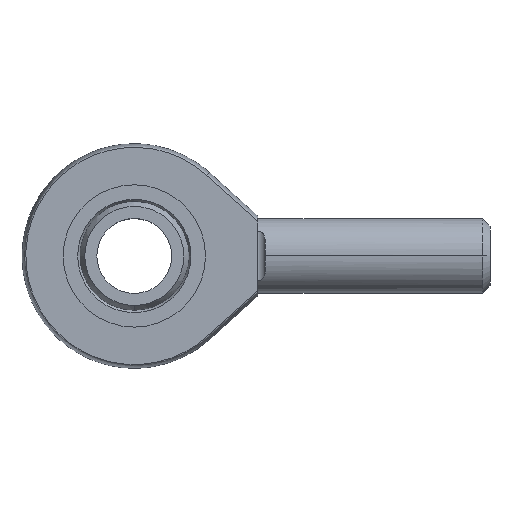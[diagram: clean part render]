
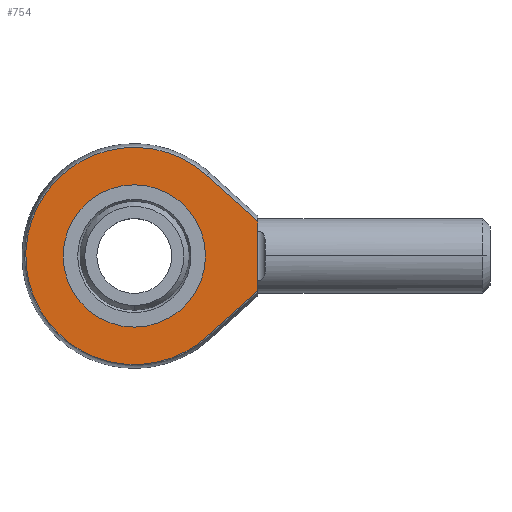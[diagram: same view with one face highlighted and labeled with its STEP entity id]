
A CAD part, top view. The second image highlights one B-rep face of the part: STEP entity #754.
In plain terms, the highlighted planar face has unit normal (0, 0, 1).
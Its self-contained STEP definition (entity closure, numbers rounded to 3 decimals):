
#6 = CARTESIAN_POINT ( 'NONE',  ( -1.5, 4.674, 7.5 ) ) ;
#7 = CARTESIAN_POINT ( 'NONE',  ( -22.629, 13.812, 7.5 ) ) ;
#20 = CARTESIAN_POINT ( 'NONE',  ( -8.315, 10.791, 7.5 ) ) ;
#137 = CARTESIAN_POINT ( 'NONE',  ( -13.041, -13.697, 7.5 ) ) ;
#146 = AXIS2_PLACEMENT_3D ( 'NONE', #1005, #1390, #859 ) ;
#163 = CARTESIAN_POINT ( 'NONE',  ( -27.5, 0., 7.5 ) ) ;
#183 = B_SPLINE_CURVE_WITH_KNOTS ( 'NONE', 3,
 ( #378, #1139, #361, #1129 ),
 .UNSPECIFIED., .F., .F.,
 ( 4, 4 ),
 ( 0., 0.82 ),
 .UNSPECIFIED. ) ;
#231 = EDGE_CURVE ( 'NONE', #349, #734, #360, .T. ) ;
#254 = CARTESIAN_POINT ( 'NONE',  ( -32.301, -2.773, 7.5 ) ) ;
#269 = CARTESIAN_POINT ( 'NONE',  ( -29.402, -9.067, 7.5 ) ) ;
#280 = CARTESIAN_POINT ( 'NONE',  ( -29.402, 9.067, 7.5 ) ) ;
#328 = VECTOR ( 'NONE', #1176, 1000. ) ;
#342 = VERTEX_POINT ( 'NONE', #163 ) ;
#349 = VERTEX_POINT ( 'NONE', #394 ) ;
#360 = LINE ( 'NONE', #1402, #402 ) ;
#361 = CARTESIAN_POINT ( 'NONE',  ( -3.772, -6.713, 7.5 ) ) ;
#362 = B_SPLINE_CURVE_WITH_KNOTS ( 'NONE', 3,
 ( #656, #791, #1293, #511 ),
 .UNSPECIFIED., .F., .F.,
 ( 4, 4 ),
 ( 0.18, 1. ),
 .UNSPECIFIED. ) ;
#378 = CARTESIAN_POINT ( 'NONE',  ( -8.315, -10.791, 7.5 ) ) ;
#394 = CARTESIAN_POINT ( 'NONE',  ( -1.5, 3.307, 7.5 ) ) ;
#402 = VECTOR ( 'NONE', #1157, 1000. ) ;
#465 = CARTESIAN_POINT ( 'NONE',  ( -32.5, 1.4, 7.5 ) ) ;
#486 = EDGE_LOOP ( 'NONE', ( #1006, #1558, #1472, #1187, #1600, #1326 ) ) ;
#491 = VERTEX_POINT ( 'NONE', #709 ) ;
#507 = CARTESIAN_POINT ( 'NONE',  ( -28.488, 10.11, 7.5 ) ) ;
#511 = CARTESIAN_POINT ( 'NONE',  ( -8.315, 10.791, 7.5 ) ) ;
#522 = CARTESIAN_POINT ( 'NONE',  ( -31.506, 5.458, 7.5 ) ) ;
#531 = CARTESIAN_POINT ( 'NONE',  ( -14.365, 14.107, 7.5 ) ) ;
#548 = CIRCLE ( 'NONE', #146, 9.5 ) ;
#556 = EDGE_CURVE ( 'NONE', #832, #1132, #1136, .T. ) ;
#635 = CARTESIAN_POINT ( 'NONE',  ( -14.365, -14.107, 7.5 ) ) ;
#644 = DIRECTION ( 'NONE',  ( 1., 0., 0. ) ) ;
#645 = CARTESIAN_POINT ( 'NONE',  ( -10.511, -12.495, 7.5 ) ) ;
#653 = CARTESIAN_POINT ( 'NONE',  ( -30.926, -6.718, 7.5 ) ) ;
#656 = CARTESIAN_POINT ( 'NONE',  ( -1.5, 4.674, 7.5 ) ) ;
#670 = CARTESIAN_POINT ( 'NONE',  ( -8.315, -10.791, 7.5 ) ) ;
#671 = CARTESIAN_POINT ( 'NONE',  ( -31.506, -5.458, 7.5 ) ) ;
#709 = CARTESIAN_POINT ( 'NONE',  ( -8.315, 10.791, 7.5 ) ) ;
#734 = VERTEX_POINT ( 'NONE', #6 ) ;
#747 = CARTESIAN_POINT ( 'NONE',  ( -1.5, -3.307, 7.5 ) ) ;
#754 = ADVANCED_FACE ( 'NONE', ( #786, #898 ), #1060, .T. ) ;
#778 = CARTESIAN_POINT ( 'NONE',  ( -22.629, -13.812, 7.5 ) ) ;
#786 = FACE_OUTER_BOUND ( 'NONE', #486, .T. ) ;
#787 = CARTESIAN_POINT ( 'NONE',  ( -17.132, 14.542, 7.5 ) ) ;
#790 = VERTEX_POINT ( 'NONE', #670 ) ;
#791 = CARTESIAN_POINT ( 'NONE',  ( -3.772, 6.713, 7.5 ) ) ;
#796 = CARTESIAN_POINT ( 'NONE',  ( -8.315, -10.791, 7.5 ) ) ;
#802 = CARTESIAN_POINT ( 'NONE',  ( -32.301, 2.773, 7.5 ) ) ;
#816 = AXIS2_PLACEMENT_3D ( 'NONE', #1415, #1570, #644 ) ;
#832 = VERTEX_POINT ( 'NONE', #1527 ) ;
#858 = CARTESIAN_POINT ( 'NONE',  ( -18., 0., 7.5 ) ) ;
#859 = DIRECTION ( 'NONE',  ( 1., 0., 0. ) ) ;
#860 = ORIENTED_EDGE ( 'NONE', *, *, #1482, .F. ) ;
#878 = DIRECTION ( 'NONE',  ( 0., 0., 1. ) ) ;
#891 = EDGE_CURVE ( 'NONE', #342, #1064, #1130, .T. ) ;
#898 = FACE_BOUND ( 'NONE', #1590, .T. ) ;
#923 = CARTESIAN_POINT ( 'NONE',  ( -18.519, 14.558, 7.5 ) ) ;
#925 = ORIENTED_EDGE ( 'NONE', *, *, #891, .F. ) ;
#926 = CARTESIAN_POINT ( 'NONE',  ( -8.5, 0., 7.5 ) ) ;
#990 = EDGE_CURVE ( 'NONE', #734, #491, #362, .T. ) ;
#1003 = EDGE_CURVE ( 'NONE', #349, #1132, #1185, .T. ) ;
#1005 = CARTESIAN_POINT ( 'NONE',  ( -18., 0., 7.5 ) ) ;
#1006 = ORIENTED_EDGE ( 'NONE', *, *, #990, .T. ) ;
#1031 = CARTESIAN_POINT ( 'NONE',  ( -13.04, 13.697, 7.5 ) ) ;
#1037 = CARTESIAN_POINT ( 'NONE',  ( -1.5, 10., 7.5 ) ) ;
#1051 = CARTESIAN_POINT ( 'NONE',  ( -9.357, -11.727, 7.5 ) ) ;
#1060 = PLANE ( 'NONE',  #816 ) ;
#1061 = CARTESIAN_POINT ( 'NONE',  ( -10.511, 12.495, 7.5 ) ) ;
#1064 = VERTEX_POINT ( 'NONE', #926 ) ;
#1127 = CARTESIAN_POINT ( 'NONE',  ( -1.5, 0., 7.5 ) ) ;
#1129 = CARTESIAN_POINT ( 'NONE',  ( -1.5, -4.674, 7.5 ) ) ;
#1130 = CIRCLE ( 'NONE', #1266, 9.5 ) ;
#1132 = VERTEX_POINT ( 'NONE', #747 ) ;
#1136 = LINE ( 'NONE', #1127, #1513 ) ;
#1139 = CARTESIAN_POINT ( 'NONE',  ( -6.043, -8.752, 7.5 ) ) ;
#1157 = DIRECTION ( 'NONE',  ( 0., 1., 0. ) ) ;
#1166 = CARTESIAN_POINT ( 'NONE',  ( -25.187, 12.671, 7.5 ) ) ;
#1176 = DIRECTION ( 'NONE',  ( 0., -1., 0. ) ) ;
#1180 = CARTESIAN_POINT ( 'NONE',  ( -30.926, 6.718, 7.5 ) ) ;
#1185 = LINE ( 'NONE', #1037, #328 ) ;
#1187 = ORIENTED_EDGE ( 'NONE', *, *, #556, .T. ) ;
#1199 = CARTESIAN_POINT ( 'NONE',  ( -26.359, -11.93, 7.5 ) ) ;
#1240 = EDGE_CURVE ( 'NONE', #790, #832, #183, .T. ) ;
#1266 = AXIS2_PLACEMENT_3D ( 'NONE', #858, #878, #1493 ) ;
#1291 = EDGE_CURVE ( 'NONE', #491, #790, #1549, .T. ) ;
#1293 = CARTESIAN_POINT ( 'NONE',  ( -6.043, 8.752, 7.5 ) ) ;
#1304 = CARTESIAN_POINT ( 'NONE',  ( -18.519, -14.558, 7.5 ) ) ;
#1311 = CARTESIAN_POINT ( 'NONE',  ( -32.5, -1.4, 7.5 ) ) ;
#1326 = ORIENTED_EDGE ( 'NONE', *, *, #231, .T. ) ;
#1331 = CARTESIAN_POINT ( 'NONE',  ( -9.357, 11.726, 7.5 ) ) ;
#1390 = DIRECTION ( 'NONE',  ( 0., 0., 1. ) ) ;
#1402 = CARTESIAN_POINT ( 'NONE',  ( -1.5, 0., 7.5 ) ) ;
#1415 = CARTESIAN_POINT ( 'NONE',  ( -18., 0., 7.5 ) ) ;
#1416 = CARTESIAN_POINT ( 'NONE',  ( -21.295, 14.19, 7.5 ) ) ;
#1428 = CARTESIAN_POINT ( 'NONE',  ( -25.187, -12.671, 7.5 ) ) ;
#1446 = CARTESIAN_POINT ( 'NONE',  ( -21.295, -14.19, 7.5 ) ) ;
#1472 = ORIENTED_EDGE ( 'NONE', *, *, #1240, .T. ) ;
#1482 = EDGE_CURVE ( 'NONE', #1064, #342, #548, .T. ) ;
#1493 = DIRECTION ( 'NONE',  ( 1., 0., 0. ) ) ;
#1513 = VECTOR ( 'NONE', #1634, 1000. ) ;
#1527 = CARTESIAN_POINT ( 'NONE',  ( -1.5, -4.674, 7.5 ) ) ;
#1549 = B_SPLINE_CURVE_WITH_KNOTS ( 'NONE', 3,
 ( #20, #1331, #1061, #1031, #531, #787, #923, #1416, #7, #1166, #1674, #507, #280, #1180, #522, #802, #465, #1311, #254, #671, #653, #269, #1587, #1199, #1428, #778, #1446, #1304, #1579, #635, #137, #645, #1051, #796 ),
 .UNSPECIFIED., .F., .F.,
 ( 4, 2, 2, 2, 2, 2, 2, 2, 2, 2, 2, 2, 2, 2, 2, 2, 4 ),
 ( 0., 0.063, 0.125, 0.188, 0.25, 0.313, 0.375, 0.438, 0.5, 0.563, 0.625, 0.688, 0.75, 0.813, 0.875, 0.938, 1. ),
 .UNSPECIFIED. ) ;
#1558 = ORIENTED_EDGE ( 'NONE', *, *, #1291, .T. ) ;
#1570 = DIRECTION ( 'NONE',  ( 0., 0., 1. ) ) ;
#1579 = CARTESIAN_POINT ( 'NONE',  ( -17.132, -14.542, 7.5 ) ) ;
#1587 = CARTESIAN_POINT ( 'NONE',  ( -28.488, -10.11, 7.5 ) ) ;
#1590 = EDGE_LOOP ( 'NONE', ( #925, #860 ) ) ;
#1600 = ORIENTED_EDGE ( 'NONE', *, *, #1003, .F. ) ;
#1634 = DIRECTION ( 'NONE',  ( 0., 1., 0. ) ) ;
#1674 = CARTESIAN_POINT ( 'NONE',  ( -26.359, 11.93, 7.5 ) ) ;
